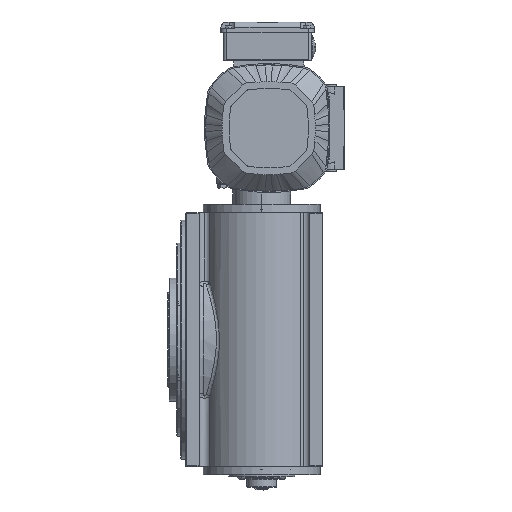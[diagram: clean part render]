
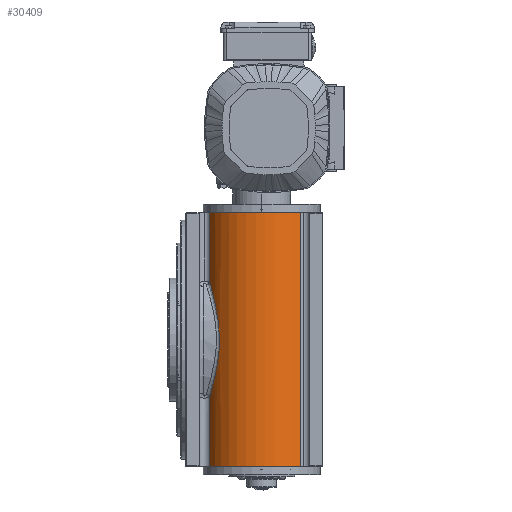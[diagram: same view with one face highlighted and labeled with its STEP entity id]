
A CAD part, left-side view. The second image highlights one B-rep face of the part: STEP entity #30409.
In plain terms, the highlighted cylindrical face has radius 71 mm (diameter 142 mm), a partial arc.
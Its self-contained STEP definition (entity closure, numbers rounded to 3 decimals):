
#983 = CARTESIAN_POINT ( 'NONE',  ( -139.32, 129.475, 38.415 ) ) ;
#1458 = CARTESIAN_POINT ( 'NONE',  ( -141.192, 127.924, -30.015 ) ) ;
#2889 = EDGE_CURVE ( 'NONE', #34837, #50287, #40327, .T. ) ;
#3878 = DIRECTION ( 'NONE',  ( 0., 0., -1. ) ) ;
#5431 = CARTESIAN_POINT ( 'NONE',  ( -128.109, 136.808, 154. ) ) ;
#5486 = B_SPLINE_CURVE_WITH_KNOTS ( 'NONE', 3,
 ( #9158, #24569, #8236, #53743, #30278, #52330, #81618, #59461, #983, #23138, #90234, #37477, #38422, #51864, #36996, #24101, #89738, #22654, #15927, #17345, #45164, #37948, #67193, #1458, #23616, #67665, #30767, #59958, #66269, #16420 ),
 .UNSPECIFIED., .F., .F.,
 ( 4, 2, 2, 2, 2, 2, 2, 2, 2, 2, 2, 2, 2, 2, 4 ),
 ( 0., 0.018, 0.023, 0.027, 0.036, 0.055, 0.059, 0.064, 0.073, 0.091, 0.095, 0.1, 0.109, 0.127, 0.145 ),
 .UNSPECIFIED. ) ;
#6208 = CARTESIAN_POINT ( 'NONE',  ( -148.721, 27.577, -154. ) ) ;
#6866 = AXIS2_PLACEMENT_3D ( 'NONE', #24680, #47648, #76431 ) ;
#7501 = CIRCLE ( 'NONE', #62630, 71. ) ;
#8127 = ORIENTED_EDGE ( 'NONE', *, *, #85990, .F. ) ;
#8236 = CARTESIAN_POINT ( 'NONE',  ( -133.018, 134.012, 58.125 ) ) ;
#8724 = CARTESIAN_POINT ( 'NONE',  ( -95., 74., -154. ) ) ;
#9158 = CARTESIAN_POINT ( 'NONE',  ( -128.109, 136.808, 68.859 ) ) ;
#9163 = VERTEX_POINT ( 'NONE', #40989 ) ;
#11033 = AXIS2_PLACEMENT_3D ( 'NONE', #8724, #15942, #17363 ) ;
#11551 = EDGE_CURVE ( 'NONE', #24794, #9163, #35872, .T. ) ;
#11638 = EDGE_LOOP ( 'NONE', ( #8127, #50866, #74008, #81098, #71380, #53070 ) ) ;
#12902 = VECTOR ( 'NONE', #58089, 1000. ) ;
#14567 = CARTESIAN_POINT ( 'NONE',  ( -128.109, 136.808, 68.859 ) ) ;
#15927 = CARTESIAN_POINT ( 'NONE',  ( -143.692, 125.681, -12.164 ) ) ;
#15942 = DIRECTION ( 'NONE',  ( 0., 0., 1. ) ) ;
#16420 = CARTESIAN_POINT ( 'NONE',  ( -128.109, 136.808, -68.859 ) ) ;
#17345 = CARTESIAN_POINT ( 'NONE',  ( -142.826, 126.476, -19.641 ) ) ;
#17363 = DIRECTION ( 'NONE',  ( 1., 0., 0. ) ) ;
#22654 = CARTESIAN_POINT ( 'NONE',  ( -144.04, 125.343, -6.17 ) ) ;
#23138 = CARTESIAN_POINT ( 'NONE',  ( -141.327, 127.831, 29.758 ) ) ;
#23616 = CARTESIAN_POINT ( 'NONE',  ( -140.598, 128.429, -32.922 ) ) ;
#24101 = CARTESIAN_POINT ( 'NONE',  ( -143.967, 125.413, 5.846 ) ) ;
#24369 = EDGE_CURVE ( 'NONE', #68032, #34837, #5486, .T. ) ;
#24569 = CARTESIAN_POINT ( 'NONE',  ( -130.725, 135.429, 63.555 ) ) ;
#24680 = CARTESIAN_POINT ( 'NONE',  ( -95., 74., -154. ) ) ;
#24794 = VERTEX_POINT ( 'NONE', #35329 ) ;
#30278 = CARTESIAN_POINT ( 'NONE',  ( -135.977, 131.984, 49.755 ) ) ;
#30409 = ADVANCED_FACE ( 'NONE', ( #43742 ), #38439, .T. ) ;
#30767 = CARTESIAN_POINT ( 'NONE',  ( -136.93, 131.346, -47.157 ) ) ;
#34837 = VERTEX_POINT ( 'NONE', #71784 ) ;
#35329 = CARTESIAN_POINT ( 'NONE',  ( -148.721, 27.577, -154. ) ) ;
#35872 = LINE ( 'NONE', #6208, #65852 ) ;
#36996 = CARTESIAN_POINT ( 'NONE',  ( -143.713, 125.653, 10.36 ) ) ;
#37477 = CARTESIAN_POINT ( 'NONE',  ( -143.2, 126.132, 16.387 ) ) ;
#37948 = CARTESIAN_POINT ( 'NONE',  ( -142.199, 127.041, -24.119 ) ) ;
#38422 = CARTESIAN_POINT ( 'NONE',  ( -143.351, 125.993, 14.878 ) ) ;
#38439 = CYLINDRICAL_SURFACE ( 'NONE', #11033, 71. ) ;
#40327 = LINE ( 'NONE', #69585, #50981 ) ;
#40989 = CARTESIAN_POINT ( 'NONE',  ( -148.721, 27.577, 154. ) ) ;
#41716 = DIRECTION ( 'NONE',  ( 0., 0., 1. ) ) ;
#43742 = FACE_OUTER_BOUND ( 'NONE', #11638, .T. ) ;
#45164 = CARTESIAN_POINT ( 'NONE',  ( -142.631, 126.653, -21.138 ) ) ;
#46210 = DIRECTION ( 'NONE',  ( 1., 0., 0. ) ) ;
#46678 = CARTESIAN_POINT ( 'NONE',  ( -95., 74., 154. ) ) ;
#47164 = DIRECTION ( 'NONE',  ( 0., 0., 1. ) ) ;
#47648 = DIRECTION ( 'NONE',  ( 0., 0., 1. ) ) ;
#49620 = CARTESIAN_POINT ( 'NONE',  ( -128.109, 136.808, -500000. ) ) ;
#50287 = VERTEX_POINT ( 'NONE', #53102 ) ;
#50866 = ORIENTED_EDGE ( 'NONE', *, *, #24369, .T. ) ;
#50981 = VECTOR ( 'NONE', #3878, 1000. ) ;
#51864 = CARTESIAN_POINT ( 'NONE',  ( -143.607, 125.753, 11.865 ) ) ;
#52330 = CARTESIAN_POINT ( 'NONE',  ( -136.889, 131.329, 46.942 ) ) ;
#53070 = ORIENTED_EDGE ( 'NONE', *, *, #69114, .F. ) ;
#53102 = CARTESIAN_POINT ( 'NONE',  ( -128.109, 136.808, -154. ) ) ;
#53743 = CARTESIAN_POINT ( 'NONE',  ( -135.5, 132.319, 51.157 ) ) ;
#58089 = DIRECTION ( 'NONE',  ( 0., 0., 1. ) ) ;
#59461 = CARTESIAN_POINT ( 'NONE',  ( -138.57, 130.069, 41.275 ) ) ;
#59958 = CARTESIAN_POINT ( 'NONE',  ( -132.999, 134.023, -58.167 ) ) ;
#62630 = AXIS2_PLACEMENT_3D ( 'NONE', #46678, #47164, #46210 ) ;
#65852 = VECTOR ( 'NONE', #41716, 1000. ) ;
#66269 = CARTESIAN_POINT ( 'NONE',  ( -130.722, 135.43, -63.561 ) ) ;
#67193 = CARTESIAN_POINT ( 'NONE',  ( -141.962, 127.251, -25.6 ) ) ;
#67665 = CARTESIAN_POINT ( 'NONE',  ( -138.584, 130.076, -41.542 ) ) ;
#68032 = VERTEX_POINT ( 'NONE', #14567 ) ;
#69114 = EDGE_CURVE ( 'NONE', #82722, #9163, #7501, .T. ) ;
#69585 = CARTESIAN_POINT ( 'NONE',  ( -128.109, 136.808, 500000. ) ) ;
#71380 = ORIENTED_EDGE ( 'NONE', *, *, #11551, .T. ) ;
#71784 = CARTESIAN_POINT ( 'NONE',  ( -128.109, 136.808, -68.859 ) ) ;
#72852 = EDGE_CURVE ( 'NONE', #50287, #24794, #84999, .T. ) ;
#74008 = ORIENTED_EDGE ( 'NONE', *, *, #2889, .T. ) ;
#76431 = DIRECTION ( 'NONE',  ( 1., 0., 0. ) ) ;
#79354 = LINE ( 'NONE', #49620, #12902 ) ;
#81098 = ORIENTED_EDGE ( 'NONE', *, *, #72852, .T. ) ;
#81618 = CARTESIAN_POINT ( 'NONE',  ( -137.325, 131.008, 45.529 ) ) ;
#82722 = VERTEX_POINT ( 'NONE', #5431 ) ;
#84999 = CIRCLE ( 'NONE', #6866, 71. ) ;
#85990 = EDGE_CURVE ( 'NONE', #68032, #82722, #79354, .T. ) ;
#89738 = CARTESIAN_POINT ( 'NONE',  ( -144.049, 125.334, 2.839 ) ) ;
#90234 = CARTESIAN_POINT ( 'NONE',  ( -142.345, 126.918, 23.884 ) ) ;
